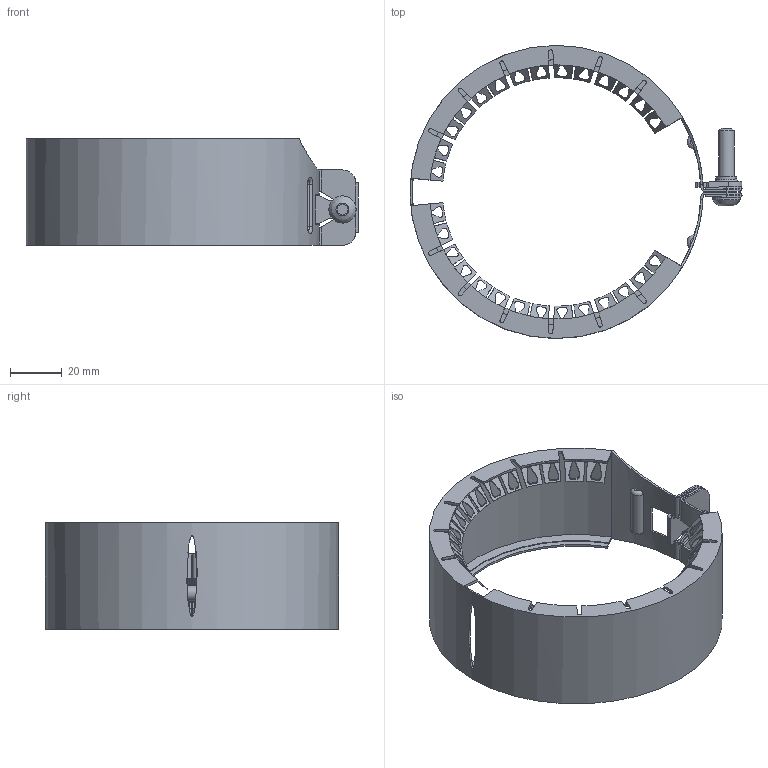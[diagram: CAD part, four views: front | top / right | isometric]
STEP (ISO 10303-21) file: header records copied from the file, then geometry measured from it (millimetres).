
FILE_DESCRIPTION(/* description */ (''),/* implementation_level */ '2;1');
FILE_NAME(/* name */ 'H:\Geberit-Teile\Export\Haltekralle\stp\390408.stp',/* time_stamp */ '2016-03-31T11:29:13+02:00',/* author */ ('seihe2'),/* organization */ (''),/* preprocessor_version */ 'ST-DEVELOPER v15.2',/* originating_system */ 'Autodesk Inventor 2014',/* authorisation */ '');
FILE_SCHEMA (('AUTOMOTIVE_DESIGN { 1 0 10303 214 3 1 1 }'));
Length unit declared in the file: millimetre
Products named in the file (1): 390408
Bounding box: 128.1 x 113.1 x 41 mm (x, y, z)
Volume: 21034.4 mm3; surface area: 62608 mm2
Topology: 1 solids, 1 shells, 491 faces, 1502 edges, 981 vertices
Faces by surface type: plane 267, cylinder 138, cone 71, bspline 10, torus 5
Full cylindrical faces by diameter (mm): 6 x1, 8 x1, 10.5 x1
Entity records: 19276 total; most frequent: CARTESIAN_POINT 6161, ORIENTED_EDGE 2984, DIRECTION 2372, EDGE_CURVE 1492, VERTEX_POINT 977, AXIS2_PLACEMENT_3D 840, LINE 692, VECTOR 692
